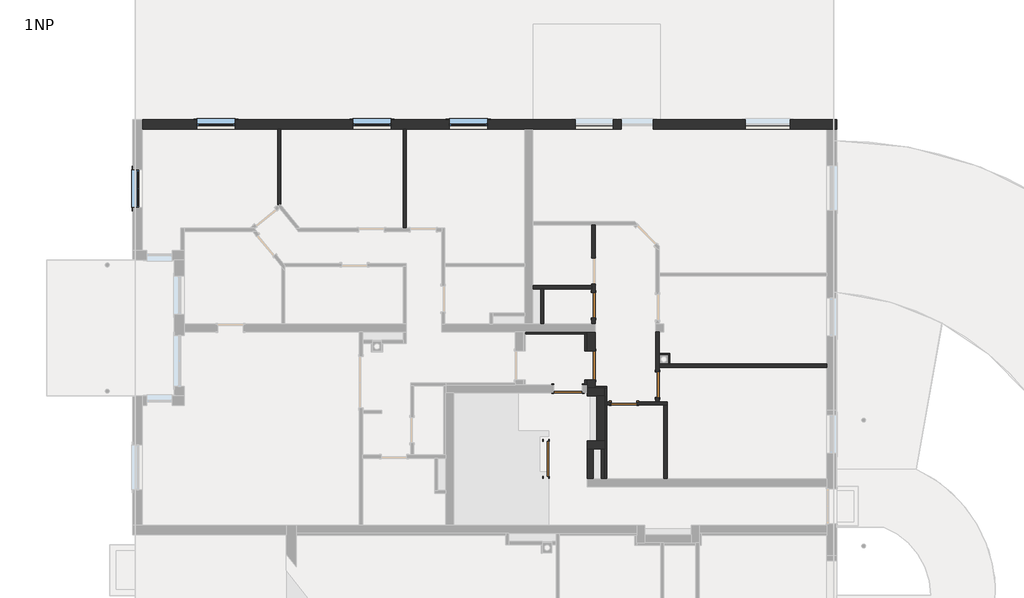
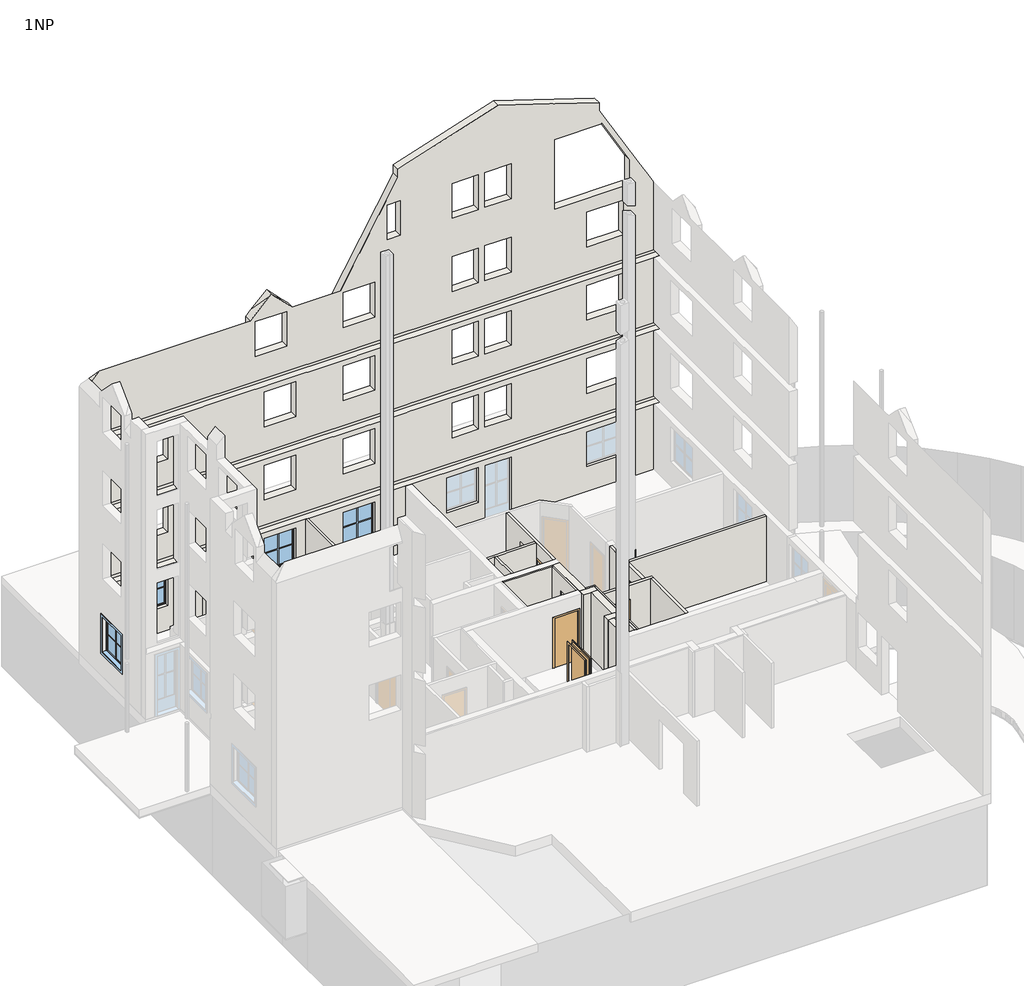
# One storey, part 5 of 7: 22 walls, 6 doors, 4 windows.
"""IFC4 building model written with IfcOpenShell, lengths in millimetres."""

import ifcopenshell
import ifcopenshell.guid

model = None  # the IFC model being written
_history = None  # IfcOwnerHistory: only IFC2X3 demands one
_inside = {}  # id of a spatial element -> (the spatial element, [elements in it])
_under = {}  # id of a project, library or spatial element -> (it, [spatial elements below it])
_declared = {}  # id of a project -> (the project, [libraries it declares])
_typed = {}  # id of a type object -> (the type object, [elements of that type])
_made_of = {}  # id of a material, layer set ... -> (it, [elements and type objects made of it])


def new_model(schema):
    """Start an empty IFC model of exactly this schema.

    Asked for "IFC4X3", IfcOpenShell would pick the latest addendum, in which some entities
    have other attributes; the version numbers below select the first issue.
    IFC2X3 requires an IfcOwnerHistory on every rooted entity: one is made here for all.
    """
    global model, _history
    if schema == "IFC4X3":
        model = ifcopenshell.file(schema_version=(4, 3, 0, 0))
    else:
        model = ifcopenshell.file(schema=schema)
    _inside.clear()
    _under.clear()
    _declared.clear()
    _typed.clear()
    _made_of.clear()
    _history = None
    if model.schema == "IFC2X3":
        org = make("IfcOrganization", Name="unknown")
        user = make(
            "IfcPersonAndOrganization",
            ThePerson=make("IfcPerson", FamilyName="unknown"),
            TheOrganization=org,
        )
        app = make(
            "IfcApplication",
            ApplicationDeveloper=org,
            Version="unknown",
            ApplicationFullName="unknown",
            ApplicationIdentifier="unknown",
        )
        _history = make(
            "IfcOwnerHistory",
            OwningUser=user,
            OwningApplication=app,
            ChangeAction="ADDED",
            CreationDate=0,
        )
    return model


def make(cls, **values):
    """One entity of the class cls with the attributes given. An attribute that is None is left unset."""
    return model.create_entity(
        cls, **{name: value for name, value in values.items() if value is not None}
    )


def rooted(cls, **values):
    """An entity with a GlobalId (a new one), such as an element, a storey or a relation."""
    return make(cls, GlobalId=ifcopenshell.guid.new(), OwnerHistory=_history, **values)


def si_unit(unit_type, name, prefix=None):
    """IfcSIUnit, for example si_unit("LENGTHUNIT", "METRE", prefix="MILLI")."""
    return make("IfcSIUnit", UnitType=unit_type, Prefix=prefix, Name=name)


def assignment(units):
    """IfcUnitAssignment: the units of a project."""
    return None if units is None else make("IfcUnitAssignment", Units=units)


def point(xyz):
    """IfcCartesianPoint."""
    return None if xyz is None else make("IfcCartesianPoint", Coordinates=xyz)


def direction(xyz):
    """IfcDirection."""
    return None if xyz is None else make("IfcDirection", DirectionRatios=xyz)


def frame(location, z_axis=None, x_axis=None):
    """IfcAxis2Placement3D, a coordinate frame: its origin and axes. An axis left out is left unset."""
    return make(
        "IfcAxis2Placement3D",
        Location=point(location),
        Axis=direction(z_axis),
        RefDirection=direction(x_axis),
    )


def origin():
    """The frame at (0, 0, 0) with its axes left unset."""
    return frame((0.0, 0.0, 0.0))


def origin_with_axes():
    """The frame at (0, 0, 0) with the z axis (0, 0, 1) and the x axis (1, 0, 0) written out."""
    return frame((0.0, 0.0, 0.0), z_axis=(0.0, 0.0, 1.0), x_axis=(1.0, 0.0, 0.0))


def place(relative_to, where):
    """IfcLocalPlacement: puts the frame where relative to a parent placement (None: the world)."""
    return make(
        "IfcLocalPlacement", PlacementRelTo=relative_to, RelativePlacement=where
    )


def context(
    kind, dimensions, precision=None, world=None, true_north=None, identifier=None
):
    """IfcGeometricRepresentationContext, for example the 3D "Model" context."""
    return make(
        "IfcGeometricRepresentationContext",
        ContextIdentifier=identifier,
        ContextType=kind,
        CoordinateSpaceDimension=dimensions,
        Precision=precision,
        WorldCoordinateSystem=world,
        TrueNorth=true_north,
    )


def project(units=None, contexts=None):
    """IfcProject with its units and contexts."""
    return rooted(
        "IfcProject",
        Name="project",
        RepresentationContexts=contexts,
        UnitsInContext=assignment(units),
    )


def spatial(cls, under=None, at=None, **own):
    """A site, building, storey or space (cls), placed at a placement, below another one or the project."""
    s = rooted(cls, ObjectPlacement=at, **own)
    if under is not None:
        _under.setdefault(under.id(), (under, []))[1].append(s)
    return s


def polyline(points):
    """IfcPolyline through the points."""
    return make("IfcPolyline", Points=[point(p) for p in points])


def outline(outer, holes=None, kind="AREA"):
    """IfcArbitraryClosedProfileDef: a profile drawn as a closed curve; with holes, ...WithVoids."""
    if holes is None:
        return make("IfcArbitraryClosedProfileDef", ProfileType=kind, OuterCurve=outer)
    return make(
        "IfcArbitraryProfileDefWithVoids",
        ProfileType=kind,
        OuterCurve=outer,
        InnerCurves=holes,
    )


def extrude(swept, where, along, depth):
    """IfcExtrudedAreaSolid: the profile swept, set in the frame where, extruded along a direction by depth."""
    return make(
        "IfcExtrudedAreaSolid",
        SweptArea=swept,
        Position=where,
        ExtrudedDirection=direction(along),
        Depth=depth,
    )


def faces_of(points, faces, orient=None, outer=None):
    """IfcFace entities. A face is a list of loops; a loop is a list of indices into points, from 0.

    orient and outer hold one flag for each loop. By default every Orientation is true, the
    first loop of a face is its IfcFaceOuterBound and the others are IfcFaceBound.
    """
    made = []
    for i, loops in enumerate(faces):
        bounds = []
        for j, loop in enumerate(loops):
            is_outer = j == 0 if outer is None else outer[i][j]
            bounds.append(
                make(
                    "IfcFaceOuterBound" if is_outer else "IfcFaceBound",
                    Bound=make("IfcPolyLoop", Polygon=[points[k] for k in loop]),
                    Orientation=True if orient is None else orient[i][j],
                )
            )
        made.append(make("IfcFace", Bounds=bounds))
    return made


def faceted_brep(points, faces, orient=None, outer=None, voids=None):
    """IfcFacetedBrep: a solid bounded by flat faces; with voids (closed shells), ...WithVoids."""
    shared = [point(p) for p in points]
    hull = make("IfcClosedShell", CfsFaces=faces_of(shared, faces, orient, outer))
    if voids is None:
        return make("IfcFacetedBrep", Outer=hull)
    return make(
        "IfcFacetedBrepWithVoids",
        Outer=hull,
        Voids=[
            make(cls, CfsFaces=faces_of(shared, fs, o, b)) for cls, fs, o, b in voids
        ],
    )


def shape(context_of_items, identifier, shape_type, items):
    """IfcShapeRepresentation: the items that make up one representation, for example the "Body"."""
    return make(
        "IfcShapeRepresentation",
        ContextOfItems=context_of_items,
        RepresentationIdentifier=identifier,
        RepresentationType=shape_type,
        Items=items,
    )


def source(mapping_origin, context_of_items, identifier, shape_type, items):
    """IfcRepresentationMap: a shape defined once, which mapped items show again and again."""
    return make(
        "IfcRepresentationMap",
        MappingOrigin=mapping_origin,
        MappedRepresentation=shape(context_of_items, identifier, shape_type, items),
    )


def transform(
    local_origin,
    x_axis=None,
    y_axis=None,
    z_axis=None,
    scale=None,
    scale2=None,
    scale3=None,
    uniform=True,
):
    """IfcCartesianTransformationOperator3D, or its non-uniform kind. x_axis, y_axis, z_axis: its Axis1, 2, 3."""
    if uniform:
        return make(
            "IfcCartesianTransformationOperator3D",
            Axis1=direction(x_axis),
            Axis2=direction(y_axis),
            LocalOrigin=point(local_origin),
            Scale=scale,
            Axis3=direction(z_axis),
        )
    return make(
        "IfcCartesianTransformationOperator3DnonUniform",
        Axis1=direction(x_axis),
        Axis2=direction(y_axis),
        LocalOrigin=point(local_origin),
        Scale=scale,
        Axis3=direction(z_axis),
        Scale2=scale2,
        Scale3=scale3,
    )


def mapped(mapping_source, mapping_target):
    """IfcMappedItem: shows the shape of a source again, moved by a transform."""
    return make(
        "IfcMappedItem", MappingSource=mapping_source, MappingTarget=mapping_target
    )


def made_of(thing, what):
    """Note that an element or type object is made of a material, layer set ...; save() writes the relation."""
    if what is not None:
        _made_of.setdefault(what.id(), (what, []))[1].append(thing)
    return thing


def element(
    cls,
    number,
    at=None,
    inside=None,
    cuts=None,
    type_object=None,
    material=None,
    context=None,
    identifier="Body",
    shape_type=None,
    held_by="IfcProductDefinitionShape",
    body=None,
    shapes=None,
    **own,
):
    """One element of the class cls, such as IfcWall. Its Tag is "e" and its number.

    at: its placement. inside: the storey or other place that contains it. cuts: it is an
    opening in that element (IfcRelVoidsElement). A single representation is given by context,
    identifier, shape_type and body (its items); several are given by shapes. held_by: the class
    of the entity that holds the representations. save() writes the other relations.
    """
    e = rooted(cls, Tag="e%d" % number, ObjectPlacement=at, **own)
    if body is not None:
        shapes = [shape(context, identifier, shape_type, body)]
    if shapes is not None:
        e.Representation = make(held_by, Representations=shapes)
    if inside is not None:
        _inside.setdefault(inside.id(), (inside, []))[1].append(e)
    if cuts is not None:
        rooted(
            "IfcRelVoidsElement", RelatingBuildingElement=cuts, RelatedOpeningElement=e
        )
    if type_object is not None:
        _typed.setdefault(type_object.id(), (type_object, []))[1].append(e)
    return made_of(e, material)


def aggregate(whole, parts):
    """IfcRelAggregates: a whole, such as a stair, and the parts it consists of."""
    return rooted("IfcRelAggregates", RelatingObject=whole, RelatedObjects=parts)


def save(model, path):
    """Write the relations noted so far, then the file.

    IfcRelAggregates (storeys below a building ...), IfcRelContainedInSpatialStructure (elements
    in a storey), IfcRelDefinesByType, IfcRelAssociatesMaterial and IfcRelDeclares: one each for
    every whole, place, type object, material and project.
    """
    for whole, parts in _under.values():
        aggregate(whole, parts)
    for where, things in _inside.values():
        rooted(
            "IfcRelContainedInSpatialStructure",
            RelatedElements=things,
            RelatingStructure=where,
        )
    for kind, things in _typed.values():
        rooted("IfcRelDefinesByType", RelatedObjects=things, RelatingType=kind)
    for what, things in _made_of.values():
        rooted("IfcRelAssociatesMaterial", RelatedObjects=things, RelatingMaterial=what)
    for by, libraries in _declared.values():
        rooted("IfcRelDeclares", RelatingContext=by, RelatedDefinitions=libraries)
    model.write(path)


def sd_1100x2000_1d62120a(model_context):
    return source(origin(), model_context, "Body", "SweptSolid", [
        extrude(outline(polyline([(2060.0, -610.0), (0.0, -610.0), (0.0, -550.0), (2000.0, -550.0), (2000.0, 550.0), (0.0, 550.0), (0.0, 610.0), (2060.0, 610.0), (2060.0, -610.0)])), frame((0.0, 85.0, 0.0), z_axis=(0.0, 1.0, 0.0), x_axis=(0.0, 0.0, 1.0)), (0.0, 0.0, 1.0), 20.0),
        extrude(outline(polyline([(2060.0, 610.0), (2060.0, -610.0), (0.0, -610.0), (0.0, -550.0), (2000.0, -550.0), (2000.0, 550.0), (0.0, 550.0), (0.0, 610.0), (2060.0, 610.0)])), frame((0.0, -105.0, 0.0), z_axis=(0.0, 1.0, 0.0), x_axis=(0.0, 0.0, 1.0)), (0.0, 0.0, 1.0), 20.0),
        extrude(outline(polyline([(550.0, 35.0), (-550.0, 35.0), (-550.0, 85.0), (550.0, 85.0), (550.0, 35.0)])), origin_with_axes(), (0.0, 0.0, 1.0), 2000.0),
    ])


def sd_800x2000_6a16926d(model_context):
    return source(origin(), model_context, "Body", "SweptSolid", [
        extrude(outline(polyline([(2060.0, -460.0), (0.0, -460.0), (0.0, -400.0), (2000.0, -400.0), (2000.0, 400.0), (0.0, 400.0), (0.0, 460.0), (2060.0, 460.0), (2060.0, -460.0)])), frame((0.0, -70.0, 0.0), z_axis=(0.0, 1.0, 0.0), x_axis=(0.0, 0.0, 1.0)), (0.0, 0.0, 1.0), 20.0),
        extrude(outline(polyline([(2060.0, 460.0), (2060.0, -460.0), (0.0, -460.0), (0.0, -400.0), (2000.0, -400.0), (2000.0, 400.0), (0.0, 400.0), (0.0, 460.0), (2060.0, 460.0)])), frame((0.0, 50.0, 0.0), z_axis=(0.0, 1.0, 0.0), x_axis=(0.0, 0.0, 1.0)), (0.0, 0.0, 1.0), 20.0),
        extrude(outline(polyline([(400.0, 0.0), (400.0, -50.0), (-400.0, -50.0), (-400.0, 0.0), (400.0, 0.0)])), origin_with_axes(), (0.0, 0.0, 1.0), 2000.0),
    ])


def sd_800x2000_80f4ff25(model_context):
    return source(origin(), model_context, "Body", "SweptSolid", [
        extrude(outline(polyline([(2060.0, -460.0), (0.0, -460.0), (0.0, -400.0), (2000.0, -400.0), (2000.0, 400.0), (0.0, 400.0), (0.0, 460.0), (2060.0, 460.0), (2060.0, -460.0)])), frame((0.0, 50.0, 0.0), z_axis=(0.0, 1.0, 0.0), x_axis=(0.0, 0.0, 1.0)), (0.0, 0.0, 1.0), 20.0),
        extrude(outline(polyline([(2060.0, 460.0), (2060.0, -460.0), (0.0, -460.0), (0.0, -400.0), (2000.0, -400.0), (2000.0, 400.0), (0.0, 400.0), (0.0, 460.0), (2060.0, 460.0)])), frame((0.0, -70.0, 0.0), z_axis=(0.0, 1.0, 0.0), x_axis=(0.0, 0.0, 1.0)), (0.0, 0.0, 1.0), 20.0),
        extrude(outline(polyline([(400.0, 0.0), (-400.0, 0.0), (-400.0, 50.0), (400.0, 50.0), (400.0, 0.0)])), origin_with_axes(), (0.0, 0.0, 1.0), 2000.0),
    ])


def sd_900x2000_a6683946(model_context):
    return source(origin(), model_context, "Body", "SweptSolid", [
        extrude(outline(polyline([(2060.0, -510.0), (0.0, -510.0), (0.0, -450.0), (2000.0, -450.0), (2000.0, 450.0), (0.0, 450.0), (0.0, 510.0), (2060.0, 510.0), (2060.0, -510.0)])), frame((0.0, -145.0, 0.0), z_axis=(0.0, 1.0, 0.0), x_axis=(0.0, 0.0, 1.0)), (0.0, 0.0, 1.0), 20.0),
        extrude(outline(polyline([(2060.0, 510.0), (2060.0, -510.0), (0.0, -510.0), (0.0, -450.0), (2000.0, -450.0), (2000.0, 450.0), (0.0, 450.0), (0.0, 510.0), (2060.0, 510.0)])), frame((0.0, 125.0, 0.0), z_axis=(0.0, 1.0, 0.0), x_axis=(0.0, 0.0, 1.0)), (0.0, 0.0, 1.0), 20.0),
        extrude(outline(polyline([(450.0, -75.0), (450.0, -125.0), (-450.0, -125.0), (-450.0, -75.0), (450.0, -75.0)])), origin_with_axes(), (0.0, 0.0, 1.0), 2000.0),
    ])


def sd_900x2000_4224ae2a(model_context):
    return source(origin(), model_context, "Body", "SweptSolid", [
        extrude(outline(polyline([(2060.0, -510.0), (0.0, -510.0), (0.0, -450.0), (2000.0, -450.0), (2000.0, 450.0), (0.0, 450.0), (0.0, 510.0), (2060.0, 510.0), (2060.0, -510.0)])), frame((0.0, 125.0, 0.0), z_axis=(0.0, 1.0, 0.0), x_axis=(0.0, 0.0, 1.0)), (0.0, 0.0, 1.0), 20.0),
        extrude(outline(polyline([(2060.0, 510.0), (2060.0, -510.0), (0.0, -510.0), (0.0, -450.0), (2000.0, -450.0), (2000.0, 450.0), (0.0, 450.0), (0.0, 510.0), (2060.0, 510.0)])), frame((0.0, -145.0, 0.0), z_axis=(0.0, 1.0, 0.0), x_axis=(0.0, 0.0, 1.0)), (0.0, 0.0, 1.0), 20.0),
        extrude(outline(polyline([(450.0, 75.0), (-450.0, 75.0), (-450.0, 125.0), (450.0, 125.0), (450.0, 75.0)])), origin_with_axes(), (0.0, 0.0, 1.0), 2000.0),
    ])


def standard_window_with_mullions_80486b60(model_context):
    return source(origin(), model_context, "Body", "SweptSolid", [
        extrude(outline(polyline([(600.0, 26.9623738), (-600.0, 26.9623738), (-600.0, 180.0), (600.0, 180.0), (600.0, 26.9623738)])), frame((0.0, 0.0, 1000.0), z_axis=(0.0, 0.0, 1.0), x_axis=(1.0, 0.0, 0.0)), (0.0, 0.0, 1.0), 25.0),
        extrude(outline(polyline([(2500.0, -700.0), (900.0, -700.0), (900.0, 700.0), (2500.0, 700.0), (2500.0, -700.0)]), holes=[polyline([(2400.0, -600.0), (2400.0, 600.0), (1000.0, 600.0), (1000.0, -600.0), (2400.0, -600.0)])]), frame((0.0, 150.0, 0.0), z_axis=(0.0, 1.0, 0.0), x_axis=(0.0, 0.0, 1.0)), (0.0, 0.0, 1.0), 15.0),
        extrude(outline(polyline([(2375.0, -575.0), (1025.0, -575.0), (1025.0, 575.0), (2375.0, 575.0), (2375.0, -575.0)]), holes=[polyline([(2340.0, -540.0), (2340.0, 540.0), (1060.0, 540.0), (1060.0, -540.0), (2340.0, -540.0)])]), frame((0.0, -39.0188131, 0.0), z_axis=(0.0, 1.0, 0.0), x_axis=(0.0, 0.0, 1.0)), (0.0, 0.0, 1.0), 50.5),
        extrude(outline(polyline([(1000.0, -600.0), (1000.0, 600.0), (2400.0, 600.0), (2400.0, -600.0), (1000.0, -600.0)]), holes=[polyline([(1025.0, -575.0), (2375.0, -575.0), (2375.0, 575.0), (1025.0, 575.0), (1025.0, -575.0)])]), frame((0.0, -39.0188131, 0.0), z_axis=(0.0, 1.0, 0.0), x_axis=(0.0, 0.0, 1.0)), (0.0, 0.0, 1.0), 65.9811869),
        extrude(outline(polyline([(1715.0, 540.0), (1715.0, 15.0), (2340.0, 15.0), (2340.0, -15.0), (1715.0, -15.0), (1715.0, -540.0), (1685.0, -540.0), (1685.0, -15.0), (1060.0, -15.0), (1060.0, 15.0), (1685.0, 15.0), (1685.0, 540.0), (1715.0, 540.0)])), frame((0.0, -28.5188131, 0.0), z_axis=(0.0, 1.0, 0.0), x_axis=(0.0, 0.0, 1.0)), (0.0, 0.0, 1.0), 20.0),
        extrude(outline(polyline([(540.0, -15.5188131), (-540.0, -15.5188131), (-540.0, -13.5188131), (540.0, -13.5188131), (540.0, -15.5188131)])), frame((0.0, 0.0, 1060.0), z_axis=(0.0, 0.0, 1.0), x_axis=(1.0, 0.0, 0.0)), (0.0, 0.0, 1.0), 1280.0),
    ])


model = new_model("IFC4")

# Units and contexts
model_context = context("Model", 3, world=origin())
ifc_project = project(units=[si_unit("LENGTHUNIT", "METRE", prefix="MILLI")], contexts=[model_context])

# Site, building, storey
site = spatial("IfcSite", under=ifc_project)
building = spatial("IfcBuilding", under=site)
storey = spatial("IfcBuildingStorey", under=building, Name="1NP", Elevation=0.0)

# Doors
placement = place(None, origin())
sd_1100x2000_shape = sd_1100x2000_1d62120a(model_context)
element("IfcDoor", 1, ObjectType="JednokridlePlne : SD 1100x2000", at=placement, inside=storey, context=model_context, shape_type="MappedRepresentation", body=[
    mapped(sd_1100x2000_shape, transform((277.8037835, 250.1290541, 0.0), x_axis=(0.0, -1.0, 0.0), y_axis=(1.0, 0.0, 0.0), z_axis=(0.0, 0.0, 1.0))),
])
sd_800x2000_shape = sd_800x2000_6a16926d(model_context)
element("IfcDoor", 2, ObjectType="JednokridlePlne : SD 800x2000", at=placement, inside=storey, context=model_context, shape_type="MappedRepresentation", body=[
    mapped(sd_800x2000_shape, transform((2717.8037831, 1986.2076978, 0.0), x_axis=(1.0, 0.0, 0.0), y_axis=(0.0, 1.0, 0.0), z_axis=(0.0, 0.0, 1.0))),
])
sd_800x2000_2_shape = sd_800x2000_80f4ff25(model_context)
element("IfcDoor", 3, ObjectType="JednokridlePlne : SD 800x2000", at=placement, inside=storey, context=model_context, shape_type="MappedRepresentation", body=[
    mapped(sd_800x2000_2_shape, transform((3762.8037835, 2576.2076972, 0.0), x_axis=(0.0, -1.0, 0.0), y_axis=(1.0, 0.0, 0.0), z_axis=(0.0, 0.0, 1.0))),
])
element("IfcDoor", 4, ObjectType="JednokridlePlne : SD 800x2000", at=placement, inside=storey, context=model_context, shape_type="MappedRepresentation", body=[
    mapped(sd_800x2000_2_shape, transform((1762.8037835, 5063.1824611, 0.0), x_axis=(0.0, -1.0, 0.0), y_axis=(1.0, 0.0, 0.0), z_axis=(0.0, 0.0, 1.0))),
])
sd_900x2000_shape = sd_900x2000_a6683946(model_context)
element("IfcDoor", 5, ObjectType="JednokridlePlne : SD 900x2000", at=placement, inside=storey, context=model_context, shape_type="MappedRepresentation", body=[
    mapped(sd_900x2000_shape, transform((1687.8037835, 3171.1987133, 0.0), x_axis=(0.0, 1.0, 0.0), y_axis=(-1.0, 0.0, 0.0), z_axis=(0.0, 0.0, 1.0))),
])
sd_900x2000_2_shape = sd_900x2000_4224ae2a(model_context)
element("IfcDoor", 6, ObjectType="JednokridlePlne : SD 900x2000", at=placement, inside=storey, context=model_context, shape_type="MappedRepresentation", body=[
    mapped(sd_900x2000_2_shape, transform((967.0786115, 2442.6290541, 0.0), x_axis=(-1.0, 0.0, 0.0), y_axis=(0.0, -1.0, 0.0), z_axis=(0.0, 0.0, 1.0))),
])

# Walls
element("IfcWall", 7, ObjectType="Exterior - 250+50mm", at=placement, inside=storey, context=model_context, shape_type="Brep", body=[
    faceted_brep([(9362.8037835, 10567.6290541, 0.0), (9362.8037835, 10567.6290541, 11042.820323), (9062.8037835, 10567.6290541, 11562.4355653), (8757.3155772, 10567.6290541, 12091.5566597), (8557.3155772, 10567.6290541, 12437.9668213), (6985.5802922, 10567.6290541, 15160.2921908), (6985.5802922, 10567.6290541, 15495.936781), (5302.8037835, 10567.6290541, 16042.7040131), (5102.8037835, 10567.6290541, 16107.6879523), (3156.9978058, 10567.6290541, 16739.9186395), (-137.1962165, 10567.6290541, 15669.5701184), (-387.1962165, 10567.6290541, 15588.3401944), (-671.5846805, 10567.6290541, 15495.936781), (-671.5846805, 10567.6290541, 15154.4631818), (-2867.1962165, 10567.6290541, 11351.5524478), (-4700.2469102, 10567.6290541, 11351.5524478), (-4701.799358, 10567.6290541, 11351.5524478), (-5421.799358, 10567.6290541, 12071.5524478), (-5500.2469102, 10567.6290541, 12150.0), (-5578.6944624, 10567.6290541, 12071.5524478), (-6298.6944624, 10567.6290541, 11351.5524478), (-6300.2469102, 10567.6290541, 11351.5524478), (-12035.6437688, 10567.6290541, 11351.5524478), (-12337.1962165, 10567.6290541, 11050.0), (-12337.1962165, 10567.6290541, 8850.0), (-7587.1962165, 10567.6290541, 8850.0), (-7487.1962165, 10567.6290541, 8850.0), (-4187.1962165, 10567.6290541, 8850.0), (-4087.1962165, 10567.6290541, 8850.0), (-387.1962165, 10567.6290541, 8850.0), (-137.1962165, 10567.6290541, 8850.0), (-72.1962165, 10567.6290541, 8850.0), (3837.8037835, 10567.6290541, 8850.0), (3937.8037835, 10567.6290541, 8850.0), (9062.8037835, 10567.6290541, 8850.0), (9312.8037835, 10567.6290541, 8850.0), (9312.8037835, 10567.6290541, 8530.0), (9062.8037835, 10567.6290541, 8530.0), (-72.1962165, 10567.6290541, 8530.0), (-137.1962165, 10567.6290541, 8530.0), (-387.1962165, 10567.6290541, 8530.0), (-4087.1962165, 10567.6290541, 8530.0), (-4187.1962165, 10567.6290541, 8530.0), (-8028.1071844, 10567.6290541, 8530.0), (-8128.1071844, 10567.6290541, 8530.0), (-12337.1962165, 10567.6290541, 8530.0), (-12337.1962165, 10567.6290541, 5900.0), (-8128.1071844, 10567.6290541, 5900.0), (-8028.1071844, 10567.6290541, 5900.0), (-4187.1962165, 10567.6290541, 5900.0), (-4087.1962165, 10567.6290541, 5900.0), (-387.1962165, 10567.6290541, 5900.0), (-137.1962165, 10567.6290541, 5900.0), (-72.1962165, 10567.6290541, 5900.0), (9062.8037835, 10567.6290541, 5900.0), (9312.8037835, 10567.6290541, 5900.0), (9312.8037835, 10567.6290541, 5580.0), (9062.8037835, 10567.6290541, 5580.0), (-72.1962165, 10567.6290541, 5580.0), (-137.1962165, 10567.6290541, 5580.0), (-387.1962165, 10567.6290541, 5580.0), (-3087.1962165, 10567.6290541, 5580.0), (-3187.1962165, 10567.6290541, 5580.0), (-7587.1962165, 10567.6290541, 5580.0), (-7687.1962165, 10567.6290541, 5580.0), (-12337.1962165, 10567.6290541, 5580.0), (-12337.1962165, 10567.6290541, 2950.0), (-7687.1962165, 10567.6290541, 2950.0), (-7587.1962165, 10567.6290541, 2950.0), (-3187.1962165, 10567.6290541, 2950.0), (-3087.1962165, 10567.6290541, 2950.0), (-387.1962165, 10567.6290541, 2950.0), (-137.1962165, 10567.6290541, 2950.0), (-72.1962165, 10567.6290541, 2950.0), (9062.8037835, 10567.6290541, 2950.0), (9312.8037835, 10567.6290541, 2950.0), (9312.8037835, 10567.6290541, 2630.0), (9062.8037835, 10567.6290541, 2630.0), (-137.1962165, 10567.6290541, 2630.0), (-387.1962165, 10567.6290541, 2630.0), (-4087.1962165, 10567.6290541, 2630.0), (-4187.1962165, 10567.6290541, 2630.0), (-8012.6840058, 10567.6290541, 2630.0), (-8112.6840058, 10567.6290541, 2630.0), (-12337.1962165, 10567.6290541, 2630.0), (-12337.1962165, 10567.6290541, 0.0), (-8112.6840058, 10567.6290541, 0.0), (-8012.6840058, 10567.6290541, 0.0), (-4187.1962165, 10567.6290541, 0.0), (-4087.1962165, 10567.6290541, 0.0), (-387.1962165, 10567.6290541, 0.0), (-137.1962165, 10567.6290541, 0.0), (2637.8037835, 10567.6290541, 0.0), (2637.8037835, 10567.6290541, 2400.0), (3637.8037835, 10567.6290541, 2400.0), (3637.8037835, 10567.6290541, 0.0), (9062.8037835, 10567.6290541, 0.0), (8142.8037835, 10567.6290541, 11800.0), (5302.8037835, 10567.6290541, 11800.0), (5302.8037835, 10567.6290541, 14600.0), (7103.5732989, 10567.6290541, 14600.0), (8142.8037835, 10567.6290541, 12800.0), (-10642.4747669, 10567.6290541, 1000.0), (-10642.4747669, 10567.6290541, 2400.0), (-9442.4747669, 10567.6290541, 2400.0), (-9442.4747669, 10567.6290541, 1000.0), (-5760.5209693, 10567.6290541, 1000.0), (-5760.5209693, 10567.6290541, 2400.0), (-4560.5209693, 10567.6290541, 2400.0), (-4560.5209693, 10567.6290541, 1000.0), (-2748.3679777, 10567.6290541, 1000.0), (-2748.3679777, 10567.6290541, 2400.0), (-1548.3679777, 10567.6290541, 2400.0), (-1548.3679777, 10567.6290541, 1000.0), (6514.6462462, 10567.6290541, 1000.0), (6514.6462462, 10567.6290541, 2400.0), (7914.6462462, 10567.6290541, 2400.0), (7914.6462462, 10567.6290541, 1000.0), (1187.8037835, 10567.6290541, 1000.0), (1187.8037835, 10567.6290541, 2400.0), (2387.8037835, 10567.6290541, 2400.0), (2387.8037835, 10567.6290541, 1000.0), (-10642.4747669, 10567.6290541, 3950.0), (-10642.4747669, 10567.6290541, 5350.0), (-9442.4747669, 10567.6290541, 5350.0), (-9442.4747669, 10567.6290541, 3950.0), (-5760.5209693, 10567.6290541, 3950.0), (-5760.5209693, 10567.6290541, 5350.0), (-4560.5209693, 10567.6290541, 5350.0), (-4560.5209693, 10567.6290541, 3950.0), (-2748.3679777, 10567.6290541, 3950.0), (-2748.3679777, 10567.6290541, 5350.0), (-1548.3679777, 10567.6290541, 5350.0), (-1548.3679777, 10567.6290541, 3950.0), (6514.6462462, 10567.6290541, 3950.0), (6514.6462462, 10567.6290541, 5350.0), (7914.6462462, 10567.6290541, 5350.0), (7914.6462462, 10567.6290541, 3950.0), (1387.8037835, 10567.6290541, 3950.0), (1387.8037835, 10567.6290541, 5350.0), (2387.8037835, 10567.6290541, 5350.0), (2387.8037835, 10567.6290541, 3950.0), (2637.8037835, 10567.6290541, 3950.0), (2637.8037835, 10567.6290541, 5350.0), (3637.8037835, 10567.6290541, 5350.0), (3637.8037835, 10567.6290541, 3950.0), (-10642.4747669, 10567.6290541, 6900.0), (-10642.4747669, 10567.6290541, 8300.0), (-9442.4747669, 10567.6290541, 8300.0), (-9442.4747669, 10567.6290541, 6900.0), (-5760.5209693, 10567.6290541, 6900.0), (-5760.5209693, 10567.6290541, 8300.0), (-4560.5209693, 10567.6290541, 8300.0), (-4560.5209693, 10567.6290541, 6900.0), (-2748.3679777, 10567.6290541, 6900.0), (-2748.3679777, 10567.6290541, 8300.0), (-1548.3679777, 10567.6290541, 8300.0), (-1548.3679777, 10567.6290541, 6900.0), (6514.6462462, 10567.6290541, 6900.0), (6514.6462462, 10567.6290541, 8300.0), (7914.6462462, 10567.6290541, 8300.0), (7914.6462462, 10567.6290541, 6900.0), (1387.8037835, 10567.6290541, 6900.0), (1387.8037835, 10567.6290541, 8300.0), (2387.8037835, 10567.6290541, 8300.0), (2387.8037835, 10567.6290541, 6900.0), (2637.8037835, 10567.6290541, 6900.0), (2637.8037835, 10567.6290541, 8300.0), (3637.8037835, 10567.6290541, 8300.0), (3637.8037835, 10567.6290541, 6900.0), (-6100.2469102, 10567.6290541, 9850.0), (-6100.2469102, 10567.6290541, 11250.0), (-4900.2469102, 10567.6290541, 11250.0), (-4900.2469102, 10567.6290541, 9850.0), (-2748.3679777, 10567.6290541, 9850.0), (-2748.3679777, 10567.6290541, 11250.0), (-1548.3679777, 10567.6290541, 11250.0), (-1548.3679777, 10567.6290541, 9850.0), (6514.6462462, 10567.6290541, 9850.0), (6514.6462462, 10567.6290541, 11250.0), (7914.6462462, 10567.6290541, 11250.0), (7914.6462462, 10567.6290541, 9850.0), (1387.8037835, 10567.6290541, 9850.0), (1387.8037835, 10567.6290541, 11250.0), (2387.8037835, 10567.6290541, 11250.0), (2387.8037835, 10567.6290541, 9850.0), (2637.8037835, 10567.6290541, 9850.0), (2637.8037835, 10567.6290541, 11250.0), (3637.8037835, 10567.6290541, 11250.0), (3637.8037835, 10567.6290541, 9850.0), (1387.8037835, 10567.6290541, 12800.0), (1387.8037835, 10567.6290541, 14200.0), (2387.8037835, 10567.6290541, 14200.0), (2387.8037835, 10567.6290541, 12800.0), (2637.8037835, 10567.6290541, 12800.0), (2637.8037835, 10567.6290541, 14200.0), (3637.8037835, 10567.6290541, 14200.0), (3637.8037835, 10567.6290541, 12800.0), (-1087.1962165, 10567.6290541, 12800.0), (-1087.1962165, 10567.6290541, 14200.0), (-587.1962165, 10567.6290541, 14200.0), (-587.1962165, 10567.6290541, 12800.0), (9362.8037835, 10867.6290541, 11042.820323), (9362.8037835, 10867.6290541, 0.0), (3637.8037835, 10867.6290541, 0.0), (3637.8037835, 10867.6290541, 2400.0), (2637.8037835, 10867.6290541, 2400.0), (2637.8037835, 10867.6290541, 0.0), (-12337.1962165, 10867.6290541, 0.0), (-12337.1962165, 10867.6290541, 10831.9372055), (-6300.2469102, 10867.6290541, 10831.9372055), (-6300.2469102, 10867.6290541, 11350.0), (-6098.3097047, 10867.6290541, 11551.9372055), (-5500.2469102, 10867.6290541, 12150.0), (-4902.1841157, 10867.6290541, 11551.9372055), (-4700.2469102, 10867.6290541, 11350.0), (-4700.2469102, 10867.6290541, 10831.9372055), (-3167.1962165, 10867.6290541, 10831.9372055), (-671.5846805, 10867.6290541, 15154.4631818), (-671.5846805, 10867.6290541, 15495.936781), (3156.9978058, 10867.6290541, 16739.9186395), (6985.5802922, 10867.6290541, 15495.936781), (6985.5802922, 10867.6290541, 15160.2921908), (5302.8037835, 10867.6290541, 11800.0), (8142.8037835, 10867.6290541, 11800.0), (8142.8037835, 10867.6290541, 12800.0), (7103.5732989, 10867.6290541, 14600.0), (5302.8037835, 10867.6290541, 14600.0), (-10642.4747669, 10867.6290541, 2400.0), (-10642.4747669, 10867.6290541, 1000.0), (-9442.4747669, 10867.6290541, 1000.0), (-9442.4747669, 10867.6290541, 2400.0), (-5760.5209693, 10867.6290541, 2400.0), (-5760.5209693, 10867.6290541, 1000.0), (-4560.5209693, 10867.6290541, 1000.0), (-4560.5209693, 10867.6290541, 2400.0), (-2748.3679777, 10867.6290541, 2400.0), (-2748.3679777, 10867.6290541, 1000.0), (-1548.3679777, 10867.6290541, 1000.0), (-1548.3679777, 10867.6290541, 2400.0), (6514.6462462, 10867.6290541, 2400.0), (6514.6462462, 10867.6290541, 1000.0), (7914.6462462, 10867.6290541, 1000.0), (7914.6462462, 10867.6290541, 2400.0), (1187.8037835, 10867.6290541, 2400.0), (1187.8037835, 10867.6290541, 1000.0), (2387.8037835, 10867.6290541, 1000.0), (2387.8037835, 10867.6290541, 2400.0), (-10642.4747669, 10867.6290541, 5350.0), (-10642.4747669, 10867.6290541, 3950.0), (-9442.4747669, 10867.6290541, 3950.0), (-9442.4747669, 10867.6290541, 5350.0), (-5760.5209693, 10867.6290541, 5350.0), (-5760.5209693, 10867.6290541, 3950.0), (-4560.5209693, 10867.6290541, 3950.0), (-4560.5209693, 10867.6290541, 5350.0), (-2748.3679777, 10867.6290541, 5350.0), (-2748.3679777, 10867.6290541, 3950.0), (-1548.3679777, 10867.6290541, 3950.0), (-1548.3679777, 10867.6290541, 5350.0), (6514.6462462, 10867.6290541, 5350.0), (6514.6462462, 10867.6290541, 3950.0), (7914.6462462, 10867.6290541, 3950.0), (7914.6462462, 10867.6290541, 5350.0), (1387.8037835, 10867.6290541, 5350.0), (1387.8037835, 10867.6290541, 3950.0), (2387.8037835, 10867.6290541, 3950.0), (2387.8037835, 10867.6290541, 5350.0), (2637.8037835, 10867.6290541, 5350.0), (2637.8037835, 10867.6290541, 3950.0), (3637.8037835, 10867.6290541, 3950.0), (3637.8037835, 10867.6290541, 5350.0), (-10642.4747669, 10867.6290541, 8300.0), (-10642.4747669, 10867.6290541, 6900.0), (-9442.4747669, 10867.6290541, 6900.0), (-9442.4747669, 10867.6290541, 8300.0), (-5760.5209693, 10867.6290541, 8300.0), (-5760.5209693, 10867.6290541, 6900.0), (-4560.5209693, 10867.6290541, 6900.0), (-4560.5209693, 10867.6290541, 8300.0), (-2748.3679777, 10867.6290541, 8300.0), (-2748.3679777, 10867.6290541, 6900.0), (-1548.3679777, 10867.6290541, 6900.0), (-1548.3679777, 10867.6290541, 8300.0), (6514.6462462, 10867.6290541, 8300.0), (6514.6462462, 10867.6290541, 6900.0), (7914.6462462, 10867.6290541, 6900.0), (7914.6462462, 10867.6290541, 8300.0), (1387.8037835, 10867.6290541, 8300.0), (1387.8037835, 10867.6290541, 6900.0), (2387.8037835, 10867.6290541, 6900.0), (2387.8037835, 10867.6290541, 8300.0), (2637.8037835, 10867.6290541, 8300.0), (2637.8037835, 10867.6290541, 6900.0), (3637.8037835, 10867.6290541, 6900.0), (3637.8037835, 10867.6290541, 8300.0), (-6100.2469102, 10867.6290541, 11250.0), (-6100.2469102, 10867.6290541, 9850.0), (-4900.2469102, 10867.6290541, 9850.0), (-4900.2469102, 10867.6290541, 11250.0), (-2748.3679777, 10867.6290541, 11250.0), (-2748.3679777, 10867.6290541, 9850.0), (-1548.3679777, 10867.6290541, 9850.0), (-1548.3679777, 10867.6290541, 11250.0), (6514.6462462, 10867.6290541, 11250.0), (6514.6462462, 10867.6290541, 9850.0), (7914.6462462, 10867.6290541, 9850.0), (7914.6462462, 10867.6290541, 11250.0), (1387.8037835, 10867.6290541, 11250.0), (1387.8037835, 10867.6290541, 9850.0), (2387.8037835, 10867.6290541, 9850.0), (2387.8037835, 10867.6290541, 11250.0), (2637.8037835, 10867.6290541, 11250.0), (2637.8037835, 10867.6290541, 9850.0), (3637.8037835, 10867.6290541, 9850.0), (3637.8037835, 10867.6290541, 11250.0), (1387.8037835, 10867.6290541, 14200.0), (1387.8037835, 10867.6290541, 12800.0), (2387.8037835, 10867.6290541, 12800.0), (2387.8037835, 10867.6290541, 14200.0), (2637.8037835, 10867.6290541, 14200.0), (2637.8037835, 10867.6290541, 12800.0), (3637.8037835, 10867.6290541, 12800.0), (3637.8037835, 10867.6290541, 14200.0), (-1087.1962165, 10867.6290541, 14200.0), (-1087.1962165, 10867.6290541, 12800.0), (-587.1962165, 10867.6290541, 12800.0), (-587.1962165, 10867.6290541, 14200.0), (-12337.1962165, 10817.6290541, 2630.0), (-12337.1962165, 10817.6290541, 2950.0), (-12337.1962165, 10817.6290541, 5580.0), (-12337.1962165, 10817.6290541, 5900.0), (-12337.1962165, 10817.6290541, 8530.0), (-12337.1962165, 10817.6290541, 8850.0), (-12337.1962165, 10741.730441, 11050.0), (-6300.2469102, 10568.5253602, 11350.0), (-4700.2469102, 10568.5253602, 11350.0), (9312.8037835, 10817.6290541, 2630.0), (9312.8037835, 10817.6290541, 2950.0), (9312.8037835, 10817.6290541, 5580.0), (9312.8037835, 10817.6290541, 5900.0), (9312.8037835, 10817.6290541, 8530.0), (9312.8037835, 10817.6290541, 8850.0)], [[[0, 1, 2, 3, 4, 5, 6, 7, 8, 9, 10, 11, 12, 13, 14, 15, 16, 17, 18, 19, 20, 21, 22, 23, 24, 25, 26, 27, 28, 29, 30, 31, 32, 33, 34, 35, 36, 37, 38, 39, 40, 41, 42, 43, 44, 45, 46, 47, 48, 49, 50, 51, 52, 53, 54, 55, 56, 57, 58, 59, 60, 61, 62, 63, 64, 65, 66, 67, 68, 69, 70, 71, 72, 73, 74, 75, 76, 77, 78, 79, 80, 81, 82, 83, 84, 85, 86, 87, 88, 89, 90, 91, 92, 93, 94, 95, 96], [97, 98, 99, 100, 101], [102, 103, 104, 105], [106, 107, 108, 109], [110, 111, 112, 113], [114, 115, 116, 117], [118, 119, 120, 121], [122, 123, 124, 125], [126, 127, 128, 129], [130, 131, 132, 133], [134, 135, 136, 137], [138, 139, 140, 141], [142, 143, 144, 145], [146, 147, 148, 149], [150, 151, 152, 153], [154, 155, 156, 157], [158, 159, 160, 161], [162, 163, 164, 165], [166, 167, 168, 169], [170, 171, 172, 173], [174, 175, 176, 177], [178, 179, 180, 181], [182, 183, 184, 185], [186, 187, 188, 189], [190, 191, 192, 193], [194, 195, 196, 197], [198, 199, 200, 201]], [[202, 203, 204, 205, 206, 207, 208, 209, 210, 211, 212, 213, 214, 215, 216, 217, 218, 219, 220, 221, 222], [223, 224, 225, 226, 227], [228, 229, 230, 231], [232, 233, 234, 235], [236, 237, 238, 239], [240, 241, 242, 243], [244, 245, 246, 247], [248, 249, 250, 251], [252, 253, 254, 255], [256, 257, 258, 259], [260, 261, 262, 263], [264, 265, 266, 267], [268, 269, 270, 271], [272, 273, 274, 275], [276, 277, 278, 279], [280, 281, 282, 283], [284, 285, 286, 287], [288, 289, 290, 291], [292, 293, 294, 295], [296, 297, 298, 299], [300, 301, 302, 303], [304, 305, 306, 307], [308, 309, 310, 311], [312, 313, 314, 315], [316, 317, 318, 319], [320, 321, 322, 323], [324, 325, 326, 327]], [[203, 0, 96, 95, 204]], [[85, 208, 207, 92, 91, 90, 89, 88, 87, 86]], [[98, 97, 224, 223]], [[100, 99, 227, 226]], [[101, 100, 226, 225]], [[97, 101, 225, 224]], [[1, 0, 203, 202]], [[209, 208, 85, 84, 328, 329, 66, 65, 330, 331, 46, 45, 332, 333, 24, 23, 334]], [[99, 98, 223, 227]], [[222, 221, 6, 5]], [[218, 13, 12, 219]], [[211, 210, 335]], [[216, 215, 336]], [[5, 4, 3, 2, 1, 202, 222]], [[23, 22, 334]], [[15, 14, 217, 216, 336, 16]], [[13, 218, 217, 14]], [[215, 214, 17, 16, 336]], [[212, 211, 335, 20, 19]], [[210, 209, 334, 22, 21, 20, 335]], [[219, 12, 11, 10, 9, 220]], [[6, 221, 220, 9, 8, 7]], [[19, 18, 213, 212]], [[18, 17, 214, 213]], [[103, 102, 229, 228]], [[104, 103, 228, 231]], [[105, 104, 231, 230]], [[102, 105, 230, 229]], [[107, 106, 233, 232]], [[108, 107, 232, 235]], [[109, 108, 235, 234]], [[106, 109, 234, 233]], [[111, 110, 237, 236]], [[112, 111, 236, 239]], [[113, 112, 239, 238]], [[110, 113, 238, 237]], [[115, 114, 241, 240]], [[116, 115, 240, 243]], [[117, 116, 243, 242]], [[114, 117, 242, 241]], [[119, 118, 245, 244]], [[120, 119, 244, 247]], [[121, 120, 247, 246]], [[118, 121, 246, 245]], [[93, 92, 207, 206]], [[94, 93, 206, 205]], [[95, 94, 205, 204]], [[123, 122, 249, 248]], [[124, 123, 248, 251]], [[125, 124, 251, 250]], [[122, 125, 250, 249]], [[127, 126, 253, 252]], [[128, 127, 252, 255]], [[129, 128, 255, 254]], [[126, 129, 254, 253]], [[131, 130, 257, 256]], [[132, 131, 256, 259]], [[133, 132, 259, 258]], [[130, 133, 258, 257]], [[135, 134, 261, 260]], [[136, 135, 260, 263]], [[137, 136, 263, 262]], [[134, 137, 262, 261]], [[139, 138, 265, 264]], [[140, 139, 264, 267]], [[141, 140, 267, 266]], [[138, 141, 266, 265]], [[143, 142, 269, 268]], [[144, 143, 268, 271]], [[145, 144, 271, 270]], [[142, 145, 270, 269]], [[147, 146, 273, 272]], [[148, 147, 272, 275]], [[149, 148, 275, 274]], [[146, 149, 274, 273]], [[151, 150, 277, 276]], [[152, 151, 276, 279]], [[153, 152, 279, 278]], [[150, 153, 278, 277]], [[155, 154, 281, 280]], [[156, 155, 280, 283]], [[157, 156, 283, 282]], [[154, 157, 282, 281]], [[159, 158, 285, 284]], [[160, 159, 284, 287]], [[161, 160, 287, 286]], [[158, 161, 286, 285]], [[163, 162, 289, 288]], [[164, 163, 288, 291]], [[165, 164, 291, 290]], [[162, 165, 290, 289]], [[167, 166, 293, 292]], [[168, 167, 292, 295]], [[169, 168, 295, 294]], [[166, 169, 294, 293]], [[170, 297, 296, 171]], [[171, 296, 299, 172]], [[172, 299, 298, 173]], [[297, 170, 173, 298]], [[175, 174, 301, 300]], [[176, 175, 300, 303]], [[177, 176, 303, 302]], [[174, 177, 302, 301]], [[179, 178, 305, 304]], [[180, 179, 304, 307]], [[181, 180, 307, 306]], [[178, 181, 306, 305]], [[183, 182, 309, 308]], [[184, 183, 308, 311]], [[185, 184, 311, 310]], [[182, 185, 310, 309]], [[187, 186, 313, 312]], [[188, 187, 312, 315]], [[189, 188, 315, 314]], [[186, 189, 314, 313]], [[191, 190, 317, 316]], [[192, 191, 316, 319]], [[193, 192, 319, 318]], [[190, 193, 318, 317]], [[195, 194, 321, 320]], [[196, 195, 320, 323]], [[197, 196, 323, 322]], [[194, 197, 322, 321]], [[198, 325, 324, 199]], [[199, 324, 327, 200]], [[200, 327, 326, 201]], [[325, 198, 201, 326]], [[337, 328, 84, 83, 82, 81, 80, 79, 78, 77, 76]], [[338, 75, 74, 73, 72, 71, 70, 69, 68, 67, 66, 329]], [[338, 337, 76, 75]], [[337, 338, 329, 328]], [[339, 330, 65, 64, 63, 62, 61, 60, 59, 58, 57, 56]], [[340, 55, 54, 53, 52, 51, 50, 49, 48, 47, 46, 331]], [[340, 339, 56, 55]], [[339, 340, 331, 330]], [[341, 332, 45, 44, 43, 42, 41, 40, 39, 38, 37, 36]], [[342, 35, 34, 33, 32, 31, 30, 29, 28, 27, 26, 25, 24, 333]], [[342, 341, 36, 35]], [[341, 342, 333, 332]]]),
])
element("IfcWall", 8, ObjectType="Interior - 100mm", at=placement, inside=storey, context=model_context, shape_type="SweptSolid", body=[
    extrude(outline(polyline([(-8012.6840058, 10567.6290541), (-8012.6840058, 8193.9928466), (-8043.9240526, 8232.2831321), (-8112.6840058, 8176.1836768), (-8112.6840058, 10567.6290541), (-8012.6840058, 10567.6290541)])), origin_with_axes(), (0.0, 0.0, 1.0), 2630.0),
])
element("IfcWall", 9, ObjectType="Interior - 100mm", at=placement, inside=storey, context=model_context, shape_type="SweptSolid", body=[
    extrude(outline(polyline([(-4087.1962165, 10567.6290541), (-4087.1962165, 7467.6290541), (-4187.1962165, 7467.6290541), (-4187.1962165, 10567.6290541), (-4087.1962165, 10567.6290541)])), origin_with_axes(), (0.0, 0.0, 1.0), 2630.0),
])
element("IfcWall", 10, ObjectType="Interior - 100mm", at=placement, inside=storey, context=model_context, shape_type="Brep", body=[
    faceted_brep([(3117.8037831, 1936.2076978, 2000.0), (3117.8037831, 1936.2076978, 0.0), (3962.8037835, 1936.2076978, 0.0), (4062.8037835, 1936.2076978, 0.0), (4062.8037835, 1936.2076978, 2630.0), (3962.8037835, 1936.2076978, 2630.0), (2177.8037835, 1936.2076978, 2630.0), (2177.8037835, 1936.2076978, 0.0), (2317.8037831, 1936.2076978, 0.0), (2317.8037831, 1936.2076978, 2000.0), (4062.8037835, 2036.2076978, 0.0), (3812.8037835, 2036.2076978, 0.0), (3712.8037835, 2036.2076978, 0.0), (3117.8037831, 2036.2076978, 0.0), (3117.8037831, 2036.2076978, 2000.0), (2317.8037831, 2036.2076978, 2000.0), (2317.8037831, 2036.2076978, 0.0), (2177.8037835, 2036.2076978, 0.0), (2177.8037835, 2036.2076978, 2630.0), (3712.8037835, 2036.2076978, 2630.0), (3812.8037835, 2036.2076978, 2630.0), (4062.8037835, 2036.2076978, 2630.0)], [[[0, 1, 2, 3, 4, 5, 6, 7, 8, 9]], [[10, 11, 12, 13, 14, 15, 16, 17, 18, 19, 20, 21]], [[3, 2, 1, 13, 12, 11, 10]], [[8, 7, 17, 16]], [[4, 3, 10, 21]], [[7, 6, 18, 17]], [[6, 5, 4, 21, 20, 19, 18]], [[14, 13, 1, 0]], [[15, 14, 0, 9]], [[16, 15, 9, 8]]]),
])
element("IfcWall", 11, ObjectType="Interior - 100mm", at=placement, inside=storey, context=model_context, shape_type="SweptSolid", body=[
    extrude(outline(polyline([(3962.8037835, -382.3709459), (3962.8037835, 1936.2076978), (4062.8037835, 1936.2076978), (4062.8037835, -382.3709459), (3962.8037835, -382.3709459)])), origin_with_axes(), (0.0, 0.0, 1.0), 2630.0),
])
element("IfcWall", 12, ObjectType="Interior - 100mm", at=placement, inside=storey, context=model_context, shape_type="SweptSolid", body=[
    extrude(outline(polyline([(2012.8037835, -382.3709459), (2012.8037835, 567.6290541), (2112.8037835, 567.6290541), (2112.8037835, -382.3709459), (2012.8037835, -382.3709459)])), origin_with_axes(), (0.0, 0.0, 1.0), 2630.0),
])
element("IfcWall", 13, ObjectType="Interior - 100mm", at=placement, inside=storey, context=model_context, shape_type="Brep", body=[
    faceted_brep([(1712.8037835, 5727.9240135, 2000.0), (1712.8037835, 5727.9240135, 0.0), (1712.8037835, 5667.6290541, 0.0), (1712.8037835, 5567.6290541, 0.0), (1712.8037835, 5463.1824611, 0.0), (1712.8037835, 5463.1824611, 2000.0), (1712.8037835, 4663.1824611, 2000.0), (1712.8037835, 4663.1824611, 0.0), (1712.8037835, 4467.6290541, 0.0), (1712.8037835, 4467.6290541, 2630.0), (1712.8037835, 5567.6290541, 2630.0), (1712.8037835, 5667.6290541, 2630.0), (1712.8037835, 7567.6290541, 2630.0), (1712.8037835, 7567.6290541, 0.0), (1712.8037835, 6527.9240135, 0.0), (1712.8037835, 6527.9240135, 2000.0), (1812.8037835, 5463.1824611, 0.0), (1812.8037835, 5727.9240135, 0.0), (1812.8037835, 5727.9240135, 2000.0), (1812.8037835, 6527.9240135, 2000.0), (1812.8037835, 6527.9240135, 0.0), (1812.8037835, 7567.6290541, 0.0), (1812.8037835, 7567.6290541, 2630.0), (1812.8037835, 4467.6290541, 2630.0), (1812.8037835, 4467.6290541, 0.0), (1812.8037835, 4663.1824611, 0.0), (1812.8037835, 4663.1824611, 2000.0), (1812.8037835, 5463.1824611, 2000.0)], [[[0, 1, 2, 3, 4, 5, 6, 7, 8, 9, 10, 11, 12, 13, 14, 15]], [[16, 17, 18, 19, 20, 21, 22, 23, 24, 25, 26, 27]], [[8, 7, 25, 24]], [[4, 3, 2, 1, 17, 16]], [[14, 13, 21, 20]], [[13, 12, 22, 21]], [[9, 8, 24, 23]], [[12, 11, 10, 9, 23, 22]], [[26, 25, 7, 6]], [[27, 26, 6, 5]], [[16, 27, 5, 4]], [[18, 17, 1, 0]], [[19, 18, 0, 15]], [[20, 19, 15, 14]]]),
])
element("IfcWall", 14, ObjectType="Interior - 100mm", at=placement, inside=storey, context=model_context, shape_type="Brep", body=[
    faceted_brep([(1712.8037835, 5667.6290541, 0.0), (-137.1962165, 5667.6290541, 0.0), (-137.1962165, 5667.6290541, 2630.0), (1712.8037835, 5667.6290541, 2630.0), (1712.8037835, 5567.6290541, 0.0), (1712.8037835, 5567.6290541, 2630.0), (212.8037835, 5567.6290541, 2630.0), (112.8037835, 5567.6290541, 2630.0), (-137.1962165, 5567.6290541, 2630.0), (-137.1962165, 5567.6290541, 0.0), (112.8037835, 5567.6290541, 0.0), (212.8037835, 5567.6290541, 0.0)], [[[0, 1, 2, 3]], [[4, 5, 6, 7, 8, 9, 10, 11]], [[1, 0, 4, 11, 10, 9]], [[2, 1, 9, 8]], [[0, 3, 5, 4]], [[3, 2, 8, 7, 6, 5]]]),
])
element("IfcWall", 15, ObjectType="Interior - 100mm", at=placement, inside=storey, context=model_context, shape_type="SweptSolid", body=[
    extrude(outline(polyline([(112.8037835, 4467.6290541), (112.8037835, 5567.6290541), (212.8037835, 5567.6290541), (212.8037835, 4467.6290541), (112.8037835, 4467.6290541)])), origin_with_axes(), (0.0, 0.0, 1.0), 2630.0),
])
element("IfcWall", 16, ObjectType="Interior - 100mm", at=placement, inside=storey, context=model_context, shape_type="Brep", body=[
    faceted_brep([(9062.8037835, 3216.2076978, 0.0), (4142.8037835, 3216.2076978, 0.0), (4112.8037835, 3216.2076978, 0.0), (3812.8037835, 3216.2076978, 0.0), (3812.8037835, 3216.2076978, 2630.0), (9062.8037835, 3216.2076978, 2630.0), (9062.8037835, 3116.2076978, 0.0), (9062.8037835, 3116.2076978, 2630.0), (3812.8037835, 3116.2076978, 2630.0), (3812.8037835, 3116.2076978, 0.0)], [[[0, 1, 2, 3, 4, 5]], [[6, 7, 8, 9]], [[3, 2, 1, 0, 6, 9]], [[0, 5, 7, 6]], [[4, 3, 9, 8]], [[5, 4, 8, 7]]]),
])
element("IfcWall", 17, ObjectType="Interior - 100mm", at=placement, inside=storey, context=model_context, shape_type="Brep", body=[
    faceted_brep([(3712.8037835, 2176.2076972, 2000.0), (3712.8037835, 2176.2076972, 0.0), (3712.8037835, 2036.2076978, 0.0), (3712.8037835, 2036.2076978, 2630.0), (3712.8037835, 4217.6290541, 2630.0), (3712.8037835, 4217.6290541, 0.0), (3712.8037835, 2976.2076972, 0.0), (3712.8037835, 2976.2076972, 2000.0), (3812.8037835, 2036.2076978, 0.0), (3812.8037835, 2176.2076972, 0.0), (3812.8037835, 2176.2076972, 2000.0), (3812.8037835, 2976.2076972, 2000.0), (3812.8037835, 2976.2076972, 0.0), (3812.8037835, 3116.2076978, 0.0), (3812.8037835, 3216.2076978, 0.0), (3812.8037835, 3516.2076978, 0.0), (3812.8037835, 3546.2076978, 0.0), (3812.8037835, 4217.6290541, 0.0), (3812.8037835, 4217.6290541, 2630.0), (3812.8037835, 3216.2076978, 2630.0), (3812.8037835, 3116.2076978, 2630.0), (3812.8037835, 2036.2076978, 2630.0)], [[[0, 1, 2, 3, 4, 5, 6, 7]], [[8, 9, 10, 11, 12, 13, 14, 15, 16, 17, 18, 19, 20, 21]], [[2, 1, 9, 8]], [[6, 5, 17, 16, 15, 14, 13, 12]], [[3, 2, 8, 21]], [[5, 4, 18, 17]], [[4, 3, 21, 20, 19, 18]], [[10, 9, 1, 0]], [[11, 10, 0, 7]], [[12, 11, 7, 6]]]),
])
element("IfcWall", 18, ObjectType="Interior - 200mm", at=placement, inside=storey, context=model_context, shape_type="SweptSolid", body=[
    extrude(outline(polyline([(1562.8088399, -382.3709459), (1562.8088399, 567.6290541), (1762.8088399, 567.6290541), (1762.8088399, -382.3709459), (1562.8088399, -382.3709459)])), origin_with_axes(), (0.0, 0.0, 1.0), 2630.0),
])
element("IfcWall", 19, ObjectType="Interior - 250mm", at=placement, inside=storey, context=model_context, shape_type="SweptSolid", body=[
    extrude(outline(polyline([(2112.8037835, 2217.6290541), (2112.8037835, 817.6290541), (1862.8037835, 817.6290541), (1862.8037835, 2217.6290541), (2112.8037835, 2217.6290541)])), origin_with_axes(), (0.0, 0.0, 1.0), 2630.0),
])
element("IfcWall", 20, ObjectType="Interior - 250mm", at=placement, inside=storey, context=model_context, shape_type="Brep", body=[
    faceted_brep([(2112.8037835, 2467.6290541, 0.0), (1812.8037835, 2467.6290541, 0.0), (1562.8037835, 2467.6290541, 0.0), (1562.8037835, 2467.6290541, 2630.0), (1812.8037835, 2467.6290541, 2630.0), (2112.8037835, 2467.6290541, 2630.0), (2112.8037835, 2217.6290541, 0.0), (2112.8037835, 2217.6290541, 2630.0), (1862.8037835, 2217.6290541, 2630.0), (1562.8037835, 2217.6290541, 2630.0), (1562.8037835, 2217.6290541, 0.0), (1862.8037835, 2217.6290541, 0.0), (1562.8037835, 2317.6290541, 0.0), (1562.8037835, 2317.6290541, 2630.0)], [[[0, 1, 2, 3, 4, 5]], [[6, 7, 8, 9, 10, 11]], [[2, 1, 0, 6, 11, 10, 12]], [[3, 2, 12, 10, 9, 13]], [[0, 5, 7, 6]], [[5, 4, 3, 13, 9, 8, 7]]]),
])
element("IfcWall", 21, ObjectType="Interior - 250mm", at=placement, inside=storey, context=model_context, shape_type="Brep", body=[
    faceted_brep([(1812.8037835, 2467.6290541, 2630.0), (1812.8037835, 2467.6290541, 0.0), (1812.8037835, 2522.6290541, 0.0), (1812.8037835, 2721.1987133, 0.0), (1812.8037835, 2721.1987133, 2000.0), (1812.8037835, 3621.1987133, 2000.0), (1812.8037835, 3621.1987133, 0.0), (1812.8037835, 4217.6290541, 0.0), (1812.8037835, 4217.6290541, 2630.0), (1812.8037835, 2522.6290541, 2630.0), (1562.8037835, 2467.6290541, 0.0), (1562.8037835, 2467.6290541, 2630.0), (1562.8037835, 2567.6290541, 2630.0), (1562.8037835, 4152.6290541, 2630.0), (1562.8037835, 4217.6290541, 2630.0), (1562.8037835, 4217.6290541, 0.0), (1562.8037835, 4152.6290541, 0.0), (1562.8037835, 3621.1987133, 0.0), (1562.8037835, 3621.1987133, 2000.0), (1562.8037835, 2721.1987133, 2000.0), (1562.8037835, 2721.1987133, 0.0), (1562.8037835, 2567.6290541, 0.0)], [[[0, 1, 2, 3, 4, 5, 6, 7, 8, 9]], [[10, 11, 12, 13, 14, 15, 16, 17, 18, 19, 20, 21]], [[1, 10, 21, 20, 3, 2]], [[15, 7, 6, 17, 16]], [[1, 0, 11, 10]], [[8, 7, 15, 14]], [[0, 9, 8, 14, 13, 12, 11]], [[18, 17, 6, 5]], [[19, 18, 5, 4]], [[20, 19, 4, 3]]]),
])
element("IfcWall", 22, ObjectType="Interior - 250mm", at=placement, inside=storey, context=model_context, shape_type="Brep", body=[
    faceted_brep([(2112.8037835, 817.6290541, 0.0), (1862.8037835, 817.6290541, 0.0), (1562.8088399, 817.6290541, 0.0), (1562.8088399, 817.6290541, 2630.0), (1862.8037835, 817.6290541, 2630.0), (2112.8037835, 817.6290541, 2630.0), (2112.8037835, 567.6290541, 0.0), (2112.8037835, 567.6290541, 2630.0), (2012.8037835, 567.6290541, 2630.0), (1762.8087381, 567.6290541, 2630.0), (1562.8088399, 567.6290541, 2630.0), (1562.8088399, 567.6290541, 0.0), (1762.8088399, 567.6290541, 0.0), (2012.8037835, 567.6290541, 0.0)], [[[0, 1, 2, 3, 4, 5]], [[6, 7, 8, 9, 10, 11, 12, 13]], [[2, 1, 0, 6, 13, 12, 11]], [[0, 5, 7, 6]], [[3, 2, 11, 10]], [[5, 4, 3, 10, 9, 8, 7]]]),
])
element("IfcWall", 23, ObjectType="Interior - 300mm", at=placement, inside=storey, context=model_context, shape_type="Brep", body=[
    faceted_brep([(3812.8037835, 3516.2076978, 0.0), (4112.8037835, 3516.2076978, 0.0), (4142.8037835, 3516.2076978, 0.0), (4142.8037835, 3516.2076978, 2950.0), (4112.8037835, 3516.2076978, 2950.0), (3812.8037835, 3516.2076978, 2950.0), (3812.8037835, 3546.2076978, 0.0), (3812.8037835, 3546.2076978, 2950.0), (4142.8037835, 3546.2076978, 2950.0), (4142.8037835, 3546.2076978, 0.0)], [[[0, 1, 2, 3, 4, 5]], [[6, 7, 8, 9]], [[2, 1, 0, 6, 9]], [[5, 4, 3, 8, 7]], [[3, 2, 9, 8]], [[0, 5, 7, 6]]]),
])
element("IfcWall", 24, ObjectType="Interior - 300mm", at=placement, inside=storey, context=model_context, shape_type="SweptSolid", body=[
    extrude(outline(polyline([(4112.8037835, 3216.2076978), (4112.8037835, 3516.2076978), (4142.8037835, 3516.2076978), (4142.8037835, 3216.2076978), (4112.8037835, 3216.2076978)])), origin_with_axes(), (0.0, 0.0, 1.0), 2950.0),
])
element("IfcWall", 25, ObjectType="Interior - 65mm", at=placement, inside=storey, context=model_context, shape_type="Brep", body=[
    faceted_brep([(-372.1962165, 4152.6290541, 0.0), (1497.8037835, 4152.6290541, 0.0), (1562.8037835, 4152.6290541, 0.0), (1562.8037835, 4152.6290541, 2630.0), (1497.8037835, 4152.6290541, 2630.0), (-372.1962165, 4152.6290541, 2630.0), (-372.1962165, 4217.6290541, 0.0), (-372.1962165, 4217.6290541, 2630.0), (1562.8037835, 4217.6290541, 2630.0), (1562.8037835, 4217.6290541, 0.0)], [[[0, 1, 2, 3, 4, 5]], [[6, 7, 8, 9]], [[2, 1, 0, 6, 9]], [[3, 2, 9, 8]], [[0, 5, 7, 6]], [[5, 4, 3, 8, 7]]]),
])
element("IfcWall", 26, ObjectType="Interior - 65mm", at=placement, inside=storey, context=model_context, shape_type="SweptSolid", body=[
    extrude(outline(polyline([(4152.6290541, 0.0), (3621.1987133, 0.0), (3621.1987133, 2000.0), (2721.1987133, 2000.0), (2721.1987133, 0.0), (2567.6290541, 0.0), (2567.6290541, 2630.0), (4152.6290541, 2630.0), (4152.6290541, 0.0)])), frame((1497.8037835, 0.0, 0.0), z_axis=(1.0, 0.0, 0.0), x_axis=(0.0, 1.0, 0.0)), (0.0, 0.0, 1.0), 65.0),
])
element("IfcWall", 27, ObjectType="Interior - 65mm", at=placement, inside=storey, context=model_context, shape_type="Brep", body=[
    faceted_brep([(1812.8037835, 2457.6290541, 0.0), (2112.8037835, 2457.6290541, 0.0), (2177.8037835, 2457.6290541, 0.0), (2177.8037835, 2457.6290541, 2630.0), (2112.8037835, 2457.6290541, 2630.0), (1812.8037835, 2457.6290541, 2630.0), (1812.8037835, 2522.6290541, 0.0), (1812.8037835, 2522.6290541, 2630.0), (2177.8037835, 2522.6290541, 2630.0), (2177.8037835, 2522.6290541, 0.0), (1812.8037835, 2467.6290541, 0.0), (1812.8037835, 2467.6290541, 2630.0)], [[[0, 1, 2, 3, 4, 5]], [[6, 7, 8, 9]], [[2, 1, 0, 10, 6, 9]], [[3, 2, 9, 8]], [[0, 5, 11, 7, 6, 10]], [[5, 4, 3, 8, 7, 11]]]),
])
element("IfcWall", 28, ObjectType="Interior - 65mm", at=placement, inside=storey, context=model_context, shape_type="Brep", body=[
    faceted_brep([(2112.8037835, 2457.6290541, 0.0), (2112.8037835, -382.3709459, 0.0), (2112.8037835, -382.3709459, 2630.0), (2112.8037835, 2457.6290541, 2630.0), (2177.8037835, 2457.6290541, 0.0), (2177.8037835, 2457.6290541, 2630.0), (2177.8037835, 2036.2076978, 2630.0), (2177.8037835, 1936.2076978, 2630.0), (2177.8037835, -382.3709459, 2630.0), (2177.8037835, -382.3709459, 0.0), (2177.8037835, 1936.2076978, 0.0), (2177.8037835, 2036.2076978, 0.0)], [[[0, 1, 2, 3]], [[4, 5, 6, 7, 8, 9, 10, 11]], [[1, 0, 4, 11, 10, 9]], [[0, 3, 5, 4]], [[2, 1, 9, 8]], [[3, 2, 8, 7, 6, 5]]]),
])

# Windows
standard_window_with_mullions_shape = standard_window_with_mullions_80486b60(model_context)
element("IfcWindow", 29, ObjectType="Standard Window with mullions : 1200/1400", at=placement, inside=storey, context=model_context, shape_type="MappedRepresentation", body=[
    mapped(standard_window_with_mullions_shape, transform((-12487.1962165, 8705.3927399, 0.0), x_axis=(0.0, 1.0, 0.0), y_axis=(-1.0, 0.0, 0.0), z_axis=(0.0, 0.0, 1.0))),
])
element("IfcWindow", 30, ObjectType="Standard Window with mullions : 1200/1400", at=placement, inside=storey, context=model_context, shape_type="MappedRepresentation", body=[
    mapped(standard_window_with_mullions_shape, transform((-10042.4747669, 10717.6290541, 0.0), x_axis=(1.0, 0.0, 0.0), y_axis=(0.0, 1.0, 0.0), z_axis=(0.0, 0.0, 1.0))),
])
element("IfcWindow", 31, ObjectType="Standard Window with mullions : 1200/1400", at=placement, inside=storey, context=model_context, shape_type="MappedRepresentation", body=[
    mapped(standard_window_with_mullions_shape, transform((-5160.5209693, 10717.6290541, 0.0), x_axis=(1.0, 0.0, 0.0), y_axis=(0.0, 1.0, 0.0), z_axis=(0.0, 0.0, 1.0))),
])
element("IfcWindow", 32, ObjectType="Standard Window with mullions : 1200/1400", at=placement, inside=storey, context=model_context, shape_type="MappedRepresentation", body=[
    mapped(standard_window_with_mullions_shape, transform((-2148.3679777, 10717.6290541, 0.0), x_axis=(1.0, 0.0, 0.0), y_axis=(0.0, 1.0, 0.0), z_axis=(0.0, 0.0, 1.0))),
])

save(model, "model.ifc")
